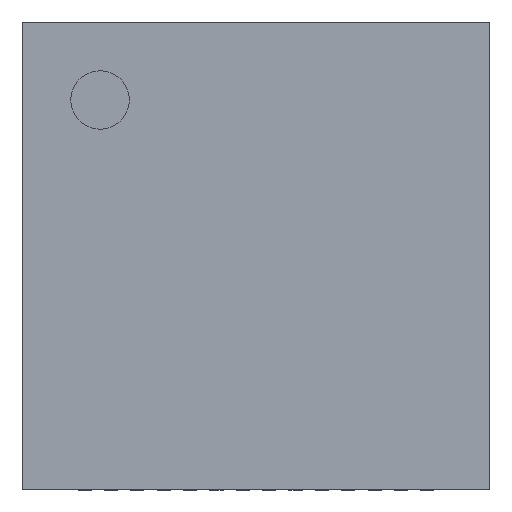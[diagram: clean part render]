
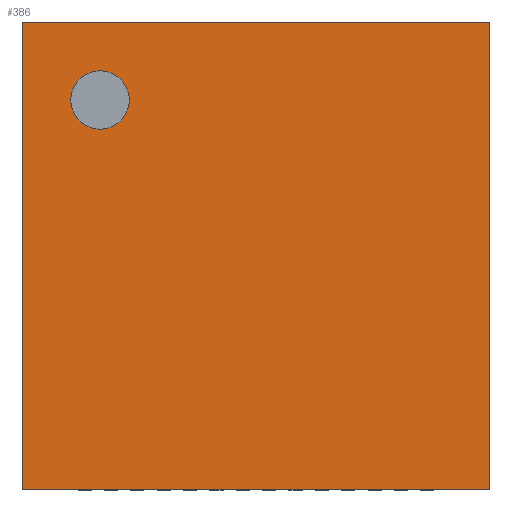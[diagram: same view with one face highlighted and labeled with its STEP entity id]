
A CAD part, top view. The second image highlights one B-rep face of the part: STEP entity #386.
In plain terms, the highlighted planar face has unit normal (0, 0, 1).
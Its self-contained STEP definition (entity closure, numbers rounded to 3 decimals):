
#322 = VERTEX_POINT('',#323);
#323 = CARTESIAN_POINT('',(0.,0.,0.8));
#338 = VERTEX_POINT('',#339);
#339 = CARTESIAN_POINT('',(0.,7.1,0.8));
#345 = EDGE_CURVE('',#322,#338,#346,.T.);
#346 = LINE('',#347,#348);
#347 = CARTESIAN_POINT('',(0.,0.,0.8));
#348 = VECTOR('',#349,1.);
#349 = DIRECTION('',(0.,1.,0.));
#368 = EDGE_CURVE('',#322,#369,#371,.T.);
#369 = VERTEX_POINT('',#370);
#370 = CARTESIAN_POINT('',(7.1,0.,0.8));
#371 = LINE('',#372,#373);
#372 = CARTESIAN_POINT('',(0.,0.,0.8));
#373 = VECTOR('',#374,1.);
#374 = DIRECTION('',(1.,0.,0.));
#386 = ADVANCED_FACE('',(#387,#405),#416,.T.);
#387 = FACE_BOUND('',#388,.T.);
#388 = EDGE_LOOP('',(#389,#390,#391,#399));
#389 = ORIENTED_EDGE('',*,*,#345,.F.);
#390 = ORIENTED_EDGE('',*,*,#368,.T.);
#391 = ORIENTED_EDGE('',*,*,#392,.T.);
#392 = EDGE_CURVE('',#369,#393,#395,.T.);
#393 = VERTEX_POINT('',#394);
#394 = CARTESIAN_POINT('',(7.1,7.1,0.8));
#395 = LINE('',#396,#397);
#396 = CARTESIAN_POINT('',(7.1,0.,0.8));
#397 = VECTOR('',#398,1.);
#398 = DIRECTION('',(0.,1.,0.));
#399 = ORIENTED_EDGE('',*,*,#400,.F.);
#400 = EDGE_CURVE('',#338,#393,#401,.T.);
#401 = LINE('',#402,#403);
#402 = CARTESIAN_POINT('',(0.,7.1,0.8));
#403 = VECTOR('',#404,1.);
#404 = DIRECTION('',(1.,0.,0.));
#405 = FACE_BOUND('',#406,.T.);
#406 = EDGE_LOOP('',(#407));
#407 = ORIENTED_EDGE('',*,*,#408,.F.);
#408 = EDGE_CURVE('',#409,#409,#411,.T.);
#409 = VERTEX_POINT('',#410);
#410 = CARTESIAN_POINT('',(1.627,5.917,0.8));
#411 = CIRCLE('',#412,0.444);
#412 = AXIS2_PLACEMENT_3D('',#413,#414,#415);
#413 = CARTESIAN_POINT('',(1.183,5.917,0.8));
#414 = DIRECTION('',(0.,0.,1.));
#415 = DIRECTION('',(1.,0.,0.));
#416 = PLANE('',#417);
#417 = AXIS2_PLACEMENT_3D('',#418,#419,#420);
#418 = CARTESIAN_POINT('',(0.,0.,0.8));
#419 = DIRECTION('',(0.,0.,1.));
#420 = DIRECTION('',(1.,0.,0.));
